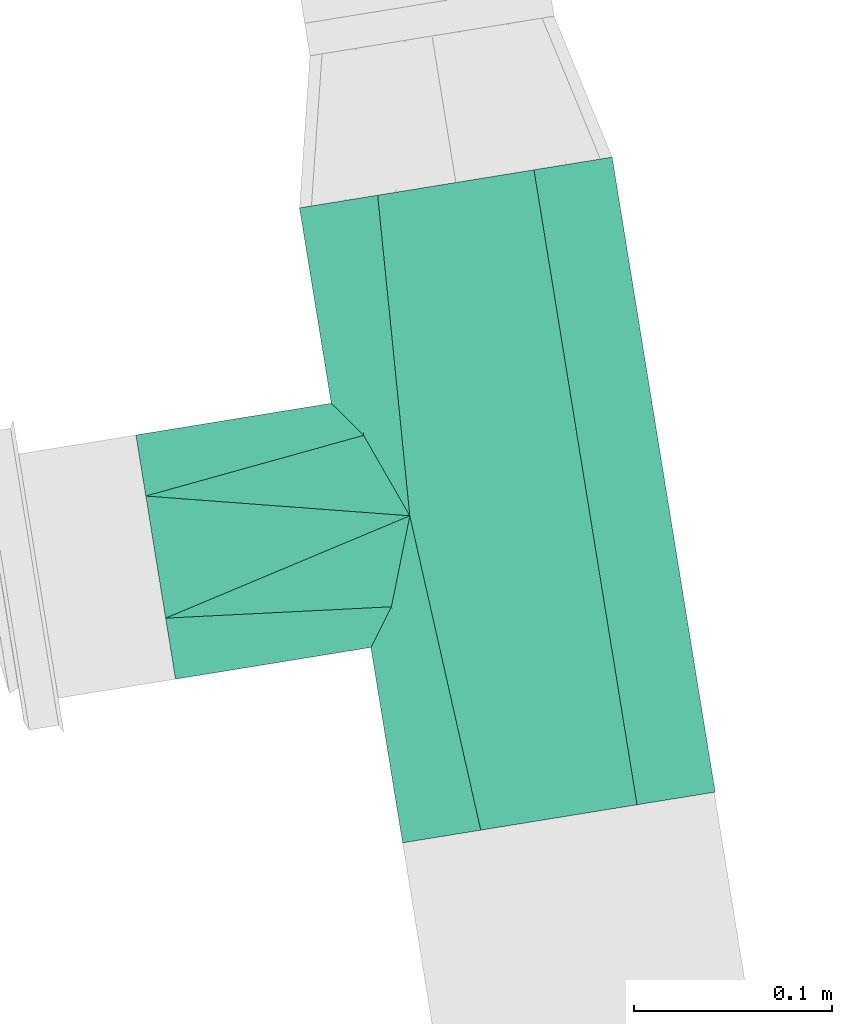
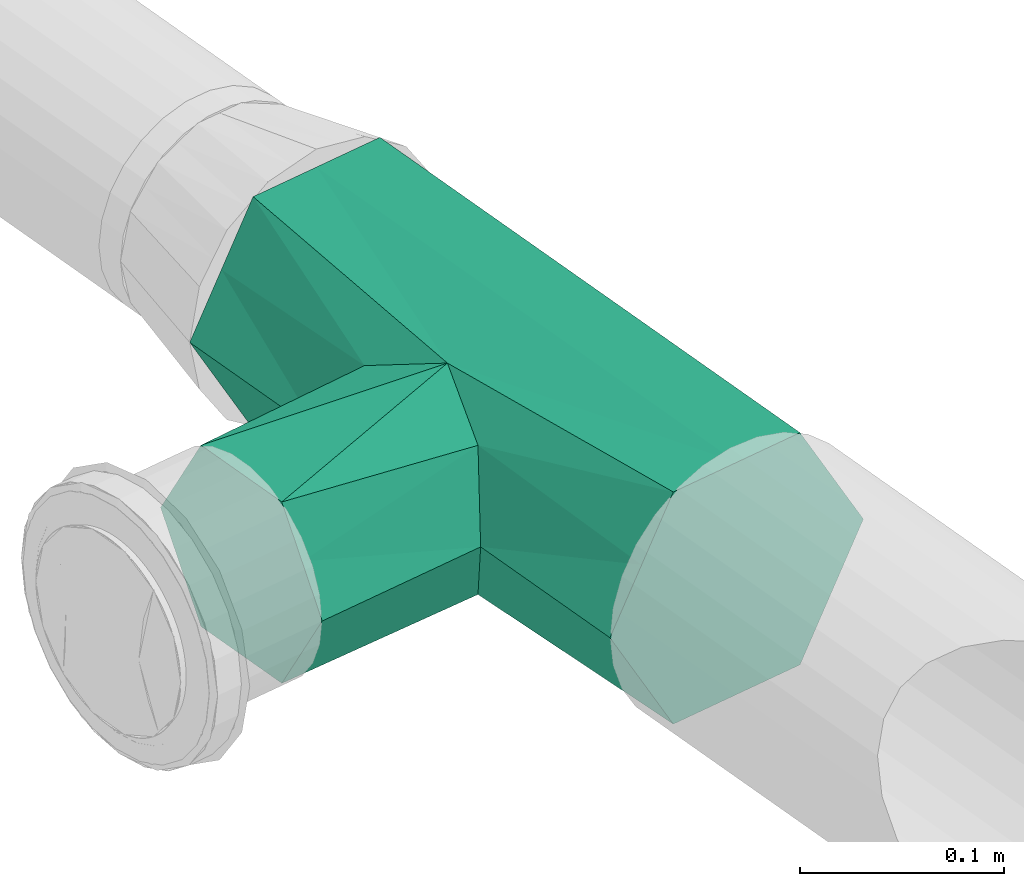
# One storey, part 5 of 6: 1 flow fitting.
"""IFC2X3 building model written with IfcOpenShell, lengths in millimetres."""

from ifc_helpers import new_model, entity, si_unit, converted_unit, derived_unit, direction, frame, origin, origin_with_axes, place, context, subcontext, project, spatial, faceted_brep, source, transform, mapped, material, type_object, element, save


model = new_model("IFC2X3")

# Units and contexts
plan_context = context("Plan", 3, precision=1e-05, world=origin_with_axes())
model_context = context("Model", 3, precision=0.01, world=origin(), true_north=direction((6.12323399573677e-17, 1.0)))
body_context = subcontext(model_context, "Body", "Model", "MODEL_VIEW")
ifc_project = project(units=[converted_unit("PLANEANGLEUNIT", "DEGREE", entity("IfcPositiveLengthMeasure", 0.0174532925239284), si_unit("PLANEANGLEUNIT", "RADIAN"), dimensions=[0, 0, 0, 0, 0, 0, 0]), si_unit("AREAUNIT", "SQUARE_METRE"), si_unit("LENGTHUNIT", "METRE", prefix="MILLI"), si_unit("MASSUNIT", "GRAM", prefix="KILO"), si_unit("POWERUNIT", "WATT"), si_unit("PRESSUREUNIT", "PASCAL", prefix="KILO"), si_unit("FORCEUNIT", "NEWTON", prefix="KILO"), si_unit("ELECTRICVOLTAGEUNIT", "VOLT"), si_unit("ELECTRICCURRENTUNIT", "AMPERE"), si_unit("THERMODYNAMICTEMPERATUREUNIT", "DEGREE_CELSIUS"), si_unit("TIMEUNIT", "SECOND"), si_unit("VOLUMEUNIT", "CUBIC_METRE"), derived_unit("LINEARVELOCITYUNIT", [(si_unit("LENGTHUNIT", "METRE"), 1), (si_unit("TIMEUNIT", "SECOND"), -1)]), derived_unit("VOLUMETRICFLOWRATEUNIT", [(si_unit("VOLUMEUNIT", "CUBIC_METRE"), 1), (si_unit("TIMEUNIT", "SECOND"), -1)]), derived_unit("THERMALTRANSMITTANCEUNIT", [(si_unit("POWERUNIT", "WATT"), 1), (si_unit("THERMODYNAMICTEMPERATUREUNIT", "KELVIN"), -1), (si_unit("AREAUNIT", "SQUARE_METRE"), -1)]), derived_unit("SOUNDPRESSUREUNIT", [(si_unit("PRESSUREUNIT", "PASCAL"), 1)])], contexts=[model_context, plan_context])

# Site, building, storey
site_placement = place(None, frame((-0.00071070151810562, 0.00438415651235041, 0.0), z_axis=(0.0, 0.0, 1.0), x_axis=(-0.160236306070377, 0.987078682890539, 0.0)))
site = spatial("IfcSite", under=ifc_project, at=site_placement, Name="Default", CompositionType="ELEMENT")
building_placement = place(site_placement, origin_with_axes())
building = spatial("IfcBuilding", under=site, at=building_placement, CompositionType="ELEMENT")
storey_placement = place(building_placement, frame((0.0, 0.0, 55630.0), z_axis=(0.0, 0.0, 1.0), x_axis=(1.0, 0.0, 0.0)))
storey = spatial("IfcBuildingStorey", under=building, at=storey_placement, Name="Nivå E", CompositionType="ELEMENT", Elevation=55630.0)

# Flow fitting
ifc_material = material(Name="<Unnamed>")
duct_fitting_type = type_object("IfcDuctFittingType", Name="magicirc_tee_centric_90_1:magicirc_tee_centric_90_001", PredefinedType="NOTDEFINED", material=ifc_material)
shared_shape = source(origin(), body_context, "Body", "Brep", [
    faceted_brep([(-162.499999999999, -80.0, 0.0), (-162.499999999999, -60.0, 34.6410161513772), (-162.499999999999, -40.0, 69.2820323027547), (-162.499999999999, 0.0, 69.2820323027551), (-162.499999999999, 40.0, 69.2820323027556), (-162.499999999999, 60.0, 34.6410161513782), (-162.499999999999, 80.0, 0.0), (-162.499999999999, 60.0, -34.6410161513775), (-162.499999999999, 40.0, -69.2820323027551), (-162.499999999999, 0.0, -69.2820323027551), (-162.499999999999, -40.0, -69.2820323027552), (-162.499999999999, -60.0, -34.6410161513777), (162.500000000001, 40.0, -69.2820323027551), (162.500000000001, 60.0, -34.6410161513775), (162.500000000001, 80.0, 0.0), (162.500000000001, 61.6472779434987, 31.7878470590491), (162.500000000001, 40.0, 69.2820323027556), (162.500000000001, 0.0, 69.2820323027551), (162.500000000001, -40.0, 69.2820323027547), (162.500000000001, -60.0, 34.6410161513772), (162.500000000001, -80.0, 0.0), (162.500000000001, -60.0, -34.6410161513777), (162.500000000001, -40.0, -69.2820323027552), (162.500000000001, 0.0, -69.2820323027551), (62.4999999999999, -80.0, 0.0), (-62.5, -80.0, 0.0), (43.8623287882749, -66.4654337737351, 44.5235456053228), (-43.8646837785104, -66.4669879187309, 44.5212254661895), (-0.0196015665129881, -49.9374647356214, 62.4999969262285), (-0.0196015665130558, -49.9374647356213, -62.4999969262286), (43.8623287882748, -66.465433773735, -44.523545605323), (-43.8646837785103, -66.4669879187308, -44.5212254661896), (62.4999999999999, -180.0, 0.0), (46.8749999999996, -180.0, 27.0632938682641), (31.2499999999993, -180.0, 54.1265877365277), (0.0, -180.0, 54.1265877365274), (-31.2500000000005, -180.0, 54.126587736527), (-46.8750000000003, -180.0, 27.0632938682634), (-62.5, -180.0, 0.0), (-46.8749999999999, -180.0, -27.0632938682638), (-31.2499999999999, -180.0, -54.1265877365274), (0.0, -180.0, -54.1265877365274), (31.25, -180.0, -54.1265877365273), (46.875, -180.0, -27.0632938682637)], [[[0, 1, 2, 3, 4, 5, 6, 7, 8, 9, 10, 11]], [[12, 13, 14, 15, 16, 17, 18, 19, 20, 21, 22, 23]], [[20, 19, 24]], [[25, 1, 0]], [[26, 19, 18]], [[24, 19, 26]], [[27, 1, 25]], [[17, 16, 4, 3]], [[5, 4, 16, 15, 14, 6]], [[27, 2, 1]], [[2, 28, 3]], [[28, 2, 27]], [[18, 17, 28]], [[3, 28, 17]], [[18, 28, 26]], [[23, 29, 9]], [[9, 8, 12, 23]], [[6, 14, 13, 12, 8, 7]], [[22, 29, 23]], [[29, 10, 9]], [[21, 24, 30]], [[30, 29, 22]], [[30, 22, 21]], [[31, 11, 10]], [[25, 11, 31]], [[0, 11, 25]], [[21, 20, 24]], [[31, 10, 29]], [[32, 33, 34, 35, 36, 37, 38, 39, 40, 41, 42, 43]], [[25, 37, 27]], [[37, 36, 27]], [[26, 34, 33]], [[28, 27, 36]], [[24, 33, 32]], [[37, 25, 38]], [[28, 34, 26]], [[28, 36, 35, 34]], [[33, 24, 26]], [[24, 43, 30]], [[43, 42, 30]], [[31, 40, 39]], [[29, 30, 42]], [[25, 39, 38]], [[43, 24, 32]], [[29, 40, 31]], [[29, 42, 41, 40]], [[39, 25, 31]]]),
])
flow_fitting_placement = place(storey_placement, frame((768545.980077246, -504762.771931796, 2400.0), z_axis=(0.0, 0.0, 1.0), x_axis=(-1.0, 0.0, 0.0)))
element("IfcFlowFitting", 1, at=flow_fitting_placement, inside=storey, type_object=duct_fitting_type, material=ifc_material, Name="magicirc_tee_centric_90_1:magicirc_tee_centric_90_001", ObjectType="magicirc_tee_centric_90_1:magicirc_tee_centric_90_001", context=body_context, shape_type="MappedRepresentation", body=[
    mapped(shared_shape, transform((0.0, 0.0, 0.0), scale=1.0)),
])

save(model, "model.ifc")
